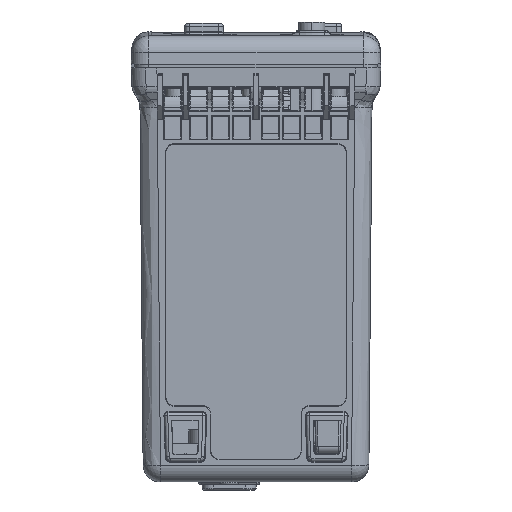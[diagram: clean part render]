
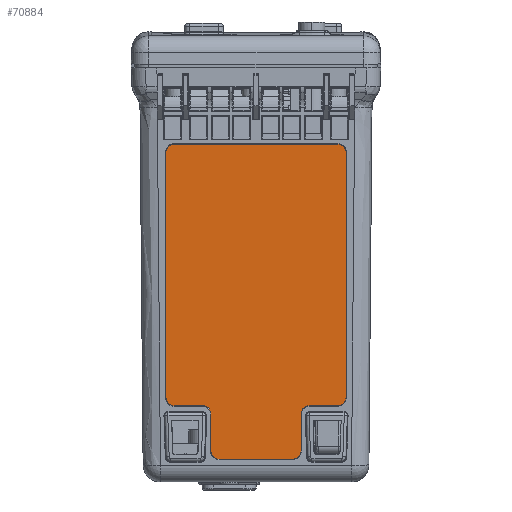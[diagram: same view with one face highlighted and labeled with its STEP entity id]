
A CAD part, front view. The second image highlights one B-rep face of the part: STEP entity #70884.
In plain terms, the highlighted planar face has unit normal (0, -0.999, -0.035).
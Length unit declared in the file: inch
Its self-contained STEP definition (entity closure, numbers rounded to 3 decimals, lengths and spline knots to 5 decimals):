
#42579=CARTESIAN_POINT('',(1.18,-3.09328,-1.09393));
#42580=DIRECTION('',(0.,-0.999,-0.035));
#42581=DIRECTION('',(1.,0.,0.));
#42582=AXIS2_PLACEMENT_3D('',#42579,#42580,#42581);
#42587=DIRECTION('',(0.,-0.035,0.999));
#42588=VECTOR('',#42587,3.54);
#42589=CARTESIAN_POINT('',(1.3,-2.96974,-4.63178));
#42590=LINE('',#42589,#42588);
#42594=CARTESIAN_POINT('',(1.18,-2.96974,-4.63178));
#42595=DIRECTION('',(0.,-0.999,-0.035));
#42596=DIRECTION('',(0.,0.035,-0.999));
#42597=AXIS2_PLACEMENT_3D('',#42594,#42595,#42596);
#42602=DIRECTION('',(1.,0.,0.));
#42603=VECTOR('',#42602,0.41);
#42604=CARTESIAN_POINT('',(0.77,-2.96555,-4.7517));
#42605=LINE('',#42604,#42603);
#42609=CARTESIAN_POINT('',(0.77,-2.96136,-4.87163));
#42610=DIRECTION('',(0.,0.999,0.035));
#42611=DIRECTION('',(-1.,0.,0.));
#42612=AXIS2_PLACEMENT_3D('',#42609,#42610,#42611);
#42617=DIRECTION('',(0.,-0.035,0.999));
#42618=VECTOR('',#42617,0.53);
#42619=CARTESIAN_POINT('',(0.65,-2.94286,-5.40131));
#42620=LINE('',#42619,#42618);
#42624=CARTESIAN_POINT('',(0.53,-2.94286,-5.40131));
#42625=DIRECTION('',(0.,-0.999,-0.035));
#42626=DIRECTION('',(0.,0.035,-0.999));
#42627=AXIS2_PLACEMENT_3D('',#42624,#42625,#42626);
#42632=DIRECTION('',(1.,0.,0.));
#42633=VECTOR('',#42632,1.06);
#42634=CARTESIAN_POINT('',(-0.53,-2.93868,-5.52124));
#42635=LINE('',#42634,#42633);
#42639=CARTESIAN_POINT('',(-0.53,-2.94286,-5.40131));
#42640=DIRECTION('',(0.,-0.999,-0.035));
#42641=DIRECTION('',(-1.,0.,0.));
#42642=AXIS2_PLACEMENT_3D('',#42639,#42640,#42641);
#42647=DIRECTION('',(0.,0.035,-0.999));
#42648=VECTOR('',#42647,0.53);
#42649=CARTESIAN_POINT('',(-0.65,-2.96136,-4.87163));
#42650=LINE('',#42649,#42648);
#42654=CARTESIAN_POINT('',(-0.77,-2.96136,-4.87163));
#42655=DIRECTION('',(0.,0.999,0.035));
#42656=DIRECTION('',(0.,-0.035,0.999));
#42657=AXIS2_PLACEMENT_3D('',#42654,#42655,#42656);
#42662=DIRECTION('',(1.,0.,0.));
#42663=VECTOR('',#42662,0.41);
#42664=CARTESIAN_POINT('',(-1.18,-2.96555,-4.7517));
#42665=LINE('',#42664,#42663);
#42669=CARTESIAN_POINT('',(-1.18,-2.96974,-4.63178));
#42670=DIRECTION('',(0.,-0.999,-0.035));
#42671=DIRECTION('',(-1.,0.,0.));
#42672=AXIS2_PLACEMENT_3D('',#42669,#42670,#42671);
#42677=DIRECTION('',(0.,0.035,-0.999));
#42678=VECTOR('',#42677,3.54);
#42679=CARTESIAN_POINT('',(-1.3,-3.09328,-1.09393));
#42680=LINE('',#42679,#42678);
#42684=CARTESIAN_POINT('',(-1.18,-3.09328,-1.09393));
#42685=DIRECTION('',(0.,-0.999,-0.035));
#42686=DIRECTION('',(0.,-0.035,0.999));
#42687=AXIS2_PLACEMENT_3D('',#42684,#42685,#42686);
#42692=DIRECTION('',(-1.,0.,0.));
#42693=VECTOR('',#42692,2.36);
#42694=CARTESIAN_POINT('',(1.18,-3.09747,-0.97401));
#42695=LINE('',#42694,#42693);
#43568=CARTESIAN_POINT('',(1.3,-3.09328,-1.09393));
#43569=CARTESIAN_POINT('',(1.18,-3.09747,-0.97401));
#43570=VERTEX_POINT('',#43568);
#43571=VERTEX_POINT('',#43569);
#43572=CARTESIAN_POINT('',(-1.18,-3.09747,-0.97401));
#43573=VERTEX_POINT('',#43572);
#43574=CARTESIAN_POINT('',(-1.3,-3.09328,-1.09393));
#43575=VERTEX_POINT('',#43574);
#43576=CARTESIAN_POINT('',(-1.3,-2.96974,-4.63178));
#43577=VERTEX_POINT('',#43576);
#43578=CARTESIAN_POINT('',(-0.53,-2.93868,-5.52124));
#43579=CARTESIAN_POINT('',(0.53,-2.93868,-5.52124));
#43580=VERTEX_POINT('',#43578);
#43581=VERTEX_POINT('',#43579);
#43582=CARTESIAN_POINT('',(1.3,-2.96974,-4.63178));
#43583=VERTEX_POINT('',#43582);
#43588=CARTESIAN_POINT('',(-1.18,-2.96555,-4.7517));
#43589=VERTEX_POINT('',#43588);
#43590=CARTESIAN_POINT('',(-0.77,-2.96555,-4.7517));
#43591=VERTEX_POINT('',#43590);
#43592=CARTESIAN_POINT('',(-0.65,-2.96136,-4.87163));
#43593=VERTEX_POINT('',#43592);
#43594=CARTESIAN_POINT('',(-0.65,-2.94286,-5.40131));
#43595=VERTEX_POINT('',#43594);
#43596=CARTESIAN_POINT('',(0.65,-2.94286,-5.40131));
#43597=VERTEX_POINT('',#43596);
#43598=CARTESIAN_POINT('',(0.65,-2.96136,-4.87163));
#43599=VERTEX_POINT('',#43598);
#43600=CARTESIAN_POINT('',(0.77,-2.96555,-4.7517));
#43601=VERTEX_POINT('',#43600);
#43602=CARTESIAN_POINT('',(1.18,-2.96555,-4.7517));
#43603=VERTEX_POINT('',#43602);
#70861=CARTESIAN_POINT('',(0.,-3.12767,-0.10922));
#70862=DIRECTION('',(0.,-0.999,-0.035));
#70863=DIRECTION('',(0.,0.035,-0.999));
#70864=AXIS2_PLACEMENT_3D('',#70861,#70862,#70863);
#70865=PLANE('',#70864);
#70866=ORIENTED_EDGE('',*,*,#70496,.F.);
#70867=ORIENTED_EDGE('',*,*,#70510,.F.);
#70868=ORIENTED_EDGE('',*,*,#70556,.F.);
#70869=ORIENTED_EDGE('',*,*,#70570,.F.);
#70870=ORIENTED_EDGE('',*,*,#70616,.F.);
#70871=ORIENTED_EDGE('',*,*,#70630,.F.);
#70872=ORIENTED_EDGE('',*,*,#70676,.F.);
#70873=ORIENTED_EDGE('',*,*,#70690,.F.);
#70874=ORIENTED_EDGE('',*,*,#70736,.F.);
#70875=ORIENTED_EDGE('',*,*,#70750,.F.);
#70876=ORIENTED_EDGE('',*,*,#70796,.F.);
#70877=ORIENTED_EDGE('',*,*,#70810,.F.);
#70878=ORIENTED_EDGE('',*,*,#70855,.F.);
#70879=ORIENTED_EDGE('',*,*,#70389,.F.);
#70880=ORIENTED_EDGE('',*,*,#70436,.F.);
#70881=ORIENTED_EDGE('',*,*,#70450,.F.);
#70882=EDGE_LOOP('',(#70866,#70867,#70868,#70869,#70870,#70871,#70872,#70873,
#70874,#70875,#70876,#70877,#70878,#70879,#70880,#70881));
#70883=FACE_OUTER_BOUND('',#70882,.F.);
#70884=ADVANCED_FACE('',(#70883),#70865,.T.);
#42583=CIRCLE('',#42582,0.12);
#42598=CIRCLE('',#42597,0.12);
#42613=CIRCLE('',#42612,0.12);
#42628=CIRCLE('',#42627,0.12);
#42643=CIRCLE('',#42642,0.12);
#42658=CIRCLE('',#42657,0.12);
#42673=CIRCLE('',#42672,0.12);
#42688=CIRCLE('',#42687,0.12);
#70389=EDGE_CURVE('',#43575,#43577,#42680,.T.);
#70436=EDGE_CURVE('',#43573,#43575,#42688,.T.);
#70450=EDGE_CURVE('',#43571,#43573,#42695,.T.);
#70496=EDGE_CURVE('',#43570,#43571,#42583,.T.);
#70510=EDGE_CURVE('',#43583,#43570,#42590,.T.);
#70556=EDGE_CURVE('',#43603,#43583,#42598,.T.);
#70570=EDGE_CURVE('',#43601,#43603,#42605,.T.);
#70616=EDGE_CURVE('',#43599,#43601,#42613,.T.);
#70630=EDGE_CURVE('',#43597,#43599,#42620,.T.);
#70676=EDGE_CURVE('',#43581,#43597,#42628,.T.);
#70690=EDGE_CURVE('',#43580,#43581,#42635,.T.);
#70736=EDGE_CURVE('',#43595,#43580,#42643,.T.);
#70750=EDGE_CURVE('',#43593,#43595,#42650,.T.);
#70796=EDGE_CURVE('',#43591,#43593,#42658,.T.);
#70810=EDGE_CURVE('',#43589,#43591,#42665,.T.);
#70855=EDGE_CURVE('',#43577,#43589,#42673,.T.);
